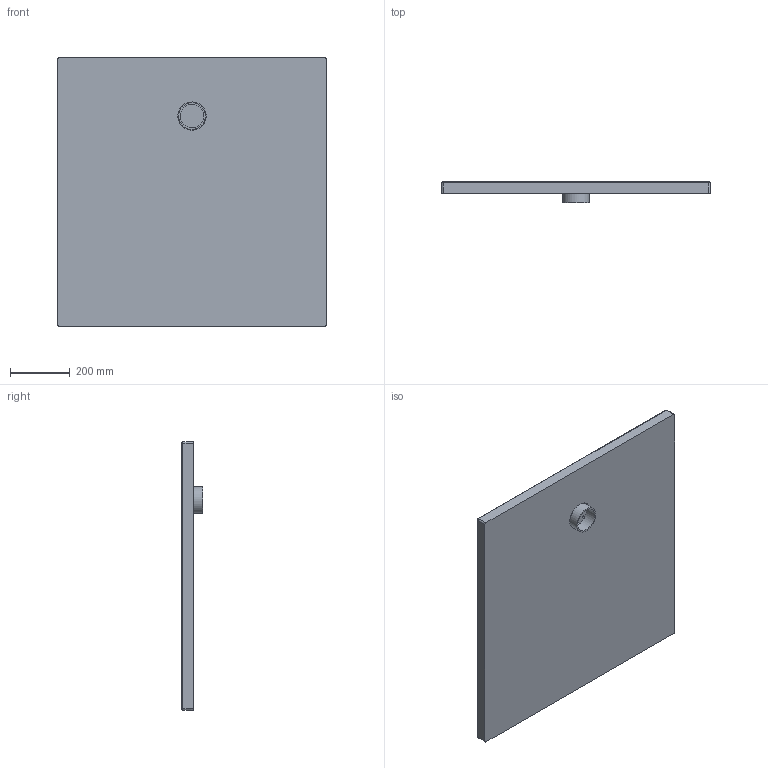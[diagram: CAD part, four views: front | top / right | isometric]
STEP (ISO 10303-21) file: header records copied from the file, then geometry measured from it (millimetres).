
FILE_DESCRIPTION (( 'STEP AP203' ), '1' );
FILE_NAME ('REPD09009040.STEP', '2025-05-06T09:34:25', ( '' ), ( '' ), 'SwSTEP 2.0', 'SolidWorks 2024', '' );
FILE_SCHEMA (( 'CONFIG_CONTROL_DESIGN' ));
Products named in the file (3): REPD09009040; PILETTA PIATTI DOCCIA
Assembly tree (2 placements, depth 2):
  REPD09009040
    REPD09009040
    PILETTA PIATTI DOCCIA
Bounding box: 901.4 x 71 x 901.4 mm (x, y, z)
Volume: 27692012.6 mm3; surface area: 1809198.4 mm2
Topology: 2 solids, 2 shells, 685 faces, 1436 edges, 951 vertices
Faces by surface type: bspline 626, plane 28, cylinder 21, sphere 4, torus 4, cone 2
Full cylindrical faces by diameter (mm): 80 x1, 90 x1, 95 x1, 114 x1, 120 x1
Entity records: 179154 total; most frequent: CARTESIAN_POINT 170750, ORIENTED_EDGE 1606, EDGE_LOOP 1322, FACE_OUTER_BOUND 1102, EDGE_CURVE 803, VERTEX_POINT 741, ADVANCED_FACE 685, B_SPLINE_CURVE_WITH_KNOTS 647
